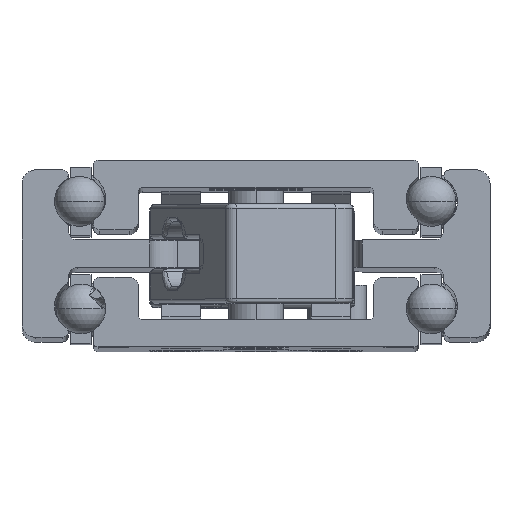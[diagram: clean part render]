
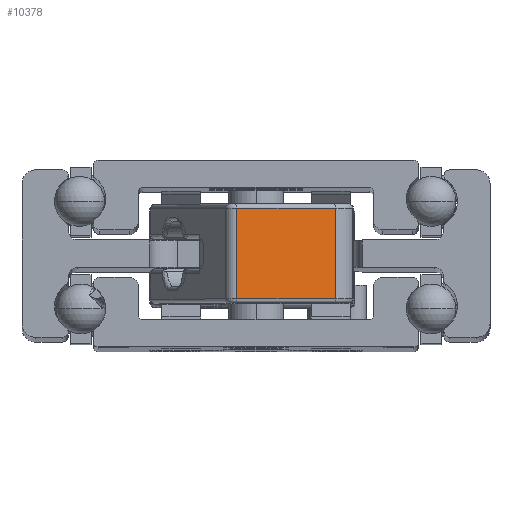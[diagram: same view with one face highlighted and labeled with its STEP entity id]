
A CAD part, top view. The second image highlights one B-rep face of the part: STEP entity #10378.
In plain terms, the highlighted planar face has unit normal (0.225, 0, 0.974) as drawn and (-1, 0, 0) by its records, which use the part's own axes.
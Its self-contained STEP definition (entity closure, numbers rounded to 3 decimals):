
#804 = VERTEX_POINT ( 'NONE', #4410 ) ;
#2705 = VERTEX_POINT ( 'NONE', #22881 ) ;
#3860 = CARTESIAN_POINT ( 'NONE',  ( -37., 8., 4.9 ) ) ;
#4327 = LINE ( 'NONE', #17237, #7296 ) ;
#4410 = CARTESIAN_POINT ( 'NONE',  ( -37., 8., 4.9 ) ) ;
#4528 = CARTESIAN_POINT ( 'NONE',  ( -37., -4., 5.4 ) ) ;
#4674 = FACE_OUTER_BOUND ( 'NONE', #23069, .T. ) ;
#6413 = DIRECTION ( 'NONE',  ( 0., 0., -1. ) ) ;
#6868 = CARTESIAN_POINT ( 'NONE',  ( -37., -3., -4.9 ) ) ;
#7296 = VECTOR ( 'NONE', #6413, 1000. ) ;
#7499 = CARTESIAN_POINT ( 'NONE',  ( -37., -3., 5.4 ) ) ;
#7534 = EDGE_CURVE ( 'NONE', #21358, #804, #20923, .T. ) ;
#7686 = CARTESIAN_POINT ( 'NONE',  ( -37., -3., 4.9 ) ) ;
#8047 = LINE ( 'NONE', #7499, #11130 ) ;
#8433 = VECTOR ( 'NONE', #23143, 1000. ) ;
#9135 = VECTOR ( 'NONE', #22543, 1000. ) ;
#9893 = ORIENTED_EDGE ( 'NONE', *, *, #10521, .T. ) ;
#10026 = EDGE_CURVE ( 'NONE', #25464, #21358, #8047, .T. ) ;
#10378 = ADVANCED_FACE ( 'NONE', ( #4674 ), #22256, .F. ) ;
#10521 = EDGE_CURVE ( 'NONE', #804, #2705, #4327, .T. ) ;
#11130 = VECTOR ( 'NONE', #14457, 1000. ) ;
#11266 = AXIS2_PLACEMENT_3D ( 'NONE', #4528, #21738, #13003 ) ;
#13003 = DIRECTION ( 'NONE',  ( 0., 1., 0. ) ) ;
#13746 = ORIENTED_EDGE ( 'NONE', *, *, #23823, .T. ) ;
#14096 = CARTESIAN_POINT ( 'NONE',  ( -37., -4., -4.9 ) ) ;
#14457 = DIRECTION ( 'NONE',  ( 0., 0., 1. ) ) ;
#17237 = CARTESIAN_POINT ( 'NONE',  ( -37., 8., 5.4 ) ) ;
#20923 = LINE ( 'NONE', #3860, #8433 ) ;
#21358 = VERTEX_POINT ( 'NONE', #7686 ) ;
#21440 = ORIENTED_EDGE ( 'NONE', *, *, #10026, .T. ) ;
#21738 = DIRECTION ( 'NONE',  ( 1., 0., 0. ) ) ;
#22256 = PLANE ( 'NONE',  #11266 ) ;
#22390 = ORIENTED_EDGE ( 'NONE', *, *, #7534, .T. ) ;
#22543 = DIRECTION ( 'NONE',  ( 0., -1., 0. ) ) ;
#22881 = CARTESIAN_POINT ( 'NONE',  ( -37., 8., -4.9 ) ) ;
#23069 = EDGE_LOOP ( 'NONE', ( #21440, #22390, #9893, #13746 ) ) ;
#23143 = DIRECTION ( 'NONE',  ( 0., 1., 0. ) ) ;
#23823 = EDGE_CURVE ( 'NONE', #2705, #25464, #26720, .T. ) ;
#25464 = VERTEX_POINT ( 'NONE', #6868 ) ;
#26720 = LINE ( 'NONE', #14096, #9135 ) ;
